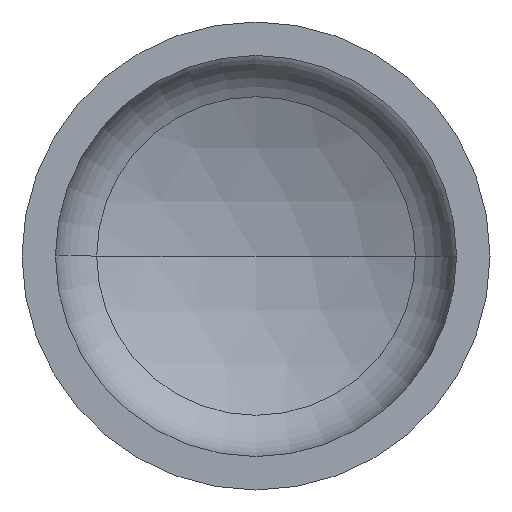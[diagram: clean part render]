
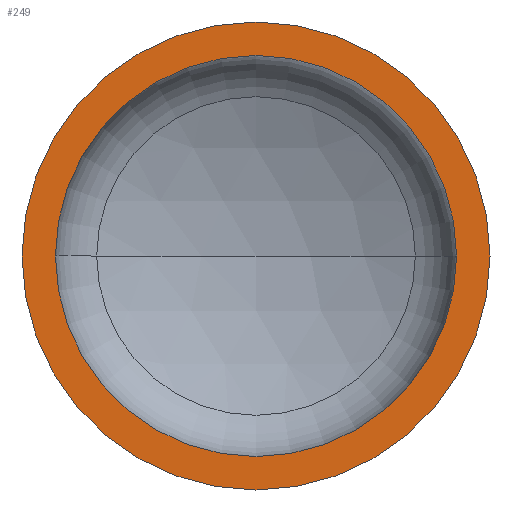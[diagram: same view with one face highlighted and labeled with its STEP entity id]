
A CAD part, front view. The second image highlights one B-rep face of the part: STEP entity #249.
In plain terms, the highlighted planar face has unit normal (0, -1, 0).
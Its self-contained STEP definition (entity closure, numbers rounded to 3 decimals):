
#7 = EDGE_LOOP ( 'NONE', ( #104, #40 ) ) ;
#25 = AXIS2_PLACEMENT_3D ( 'NONE', #201, #259, #254 ) ;
#33 = ORIENTED_EDGE ( 'NONE', *, *, #102, .F. ) ;
#40 = ORIENTED_EDGE ( 'NONE', *, *, #99, .T. ) ;
#51 = EDGE_LOOP ( 'NONE', ( #33, #179 ) ) ;
#57 = AXIS2_PLACEMENT_3D ( 'NONE', #186, #296, #293 ) ;
#65 = AXIS2_PLACEMENT_3D ( 'NONE', #303, #283, #282 ) ;
#76 = VERTEX_POINT ( 'NONE', #247 ) ;
#77 = CIRCLE ( 'NONE', #218, 600. ) ;
#78 = AXIS2_PLACEMENT_3D ( 'NONE', #332, #329, #325 ) ;
#86 = EDGE_CURVE ( 'NONE', #136, #76, #373, .T. ) ;
#99 = EDGE_CURVE ( 'NONE', #76, #136, #367, .T. ) ;
#102 = EDGE_CURVE ( 'NONE', #376, #119, #298, .T. ) ;
#103 = DIRECTION ( 'NONE',  ( 1., 0., 0. ) ) ;
#104 = ORIENTED_EDGE ( 'NONE', *, *, #86, .T. ) ;
#119 = VERTEX_POINT ( 'NONE', #198 ) ;
#133 = CARTESIAN_POINT ( 'NONE',  ( 0., 0., 0. ) ) ;
#136 = VERTEX_POINT ( 'NONE', #289 ) ;
#139 = DIRECTION ( 'NONE',  ( 0., -1., 0. ) ) ;
#179 = ORIENTED_EDGE ( 'NONE', *, *, #355, .F. ) ;
#186 = CARTESIAN_POINT ( 'NONE',  ( 0., 0., 0. ) ) ;
#198 = CARTESIAN_POINT ( 'NONE',  ( -600., 0., 0. ) ) ;
#201 = CARTESIAN_POINT ( 'NONE',  ( -700., 0., 0. ) ) ;
#211 = FACE_BOUND ( 'NONE', #51, .T. ) ;
#218 = AXIS2_PLACEMENT_3D ( 'NONE', #133, #139, #103 ) ;
#219 = CARTESIAN_POINT ( 'NONE',  ( 600., 0., 0. ) ) ;
#236 = PLANE ( 'NONE',  #25 ) ;
#247 = CARTESIAN_POINT ( 'NONE',  ( -700., 0., 0. ) ) ;
#249 = ADVANCED_FACE ( 'NONE', ( #211, #398 ), #236, .F. ) ;
#254 = DIRECTION ( 'NONE',  ( -1., 0., 0. ) ) ;
#259 = DIRECTION ( 'NONE',  ( 0., 1., 0. ) ) ;
#282 = DIRECTION ( 'NONE',  ( 1., 0., 0. ) ) ;
#283 = DIRECTION ( 'NONE',  ( 0., -1., 0. ) ) ;
#289 = CARTESIAN_POINT ( 'NONE',  ( 700., 0., 0. ) ) ;
#293 = DIRECTION ( 'NONE',  ( 1., 0., 0. ) ) ;
#296 = DIRECTION ( 'NONE',  ( 0., -1., 0. ) ) ;
#298 = CIRCLE ( 'NONE', #57, 600. ) ;
#303 = CARTESIAN_POINT ( 'NONE',  ( 0., 0., 0. ) ) ;
#325 = DIRECTION ( 'NONE',  ( 1., 0., 0. ) ) ;
#329 = DIRECTION ( 'NONE',  ( 0., -1., 0. ) ) ;
#332 = CARTESIAN_POINT ( 'NONE',  ( 0., 0., 0. ) ) ;
#355 = EDGE_CURVE ( 'NONE', #119, #376, #77, .T. ) ;
#367 = CIRCLE ( 'NONE', #65, 700. ) ;
#373 = CIRCLE ( 'NONE', #78, 700. ) ;
#376 = VERTEX_POINT ( 'NONE', #219 ) ;
#398 = FACE_OUTER_BOUND ( 'NONE', #7, .T. ) ;
